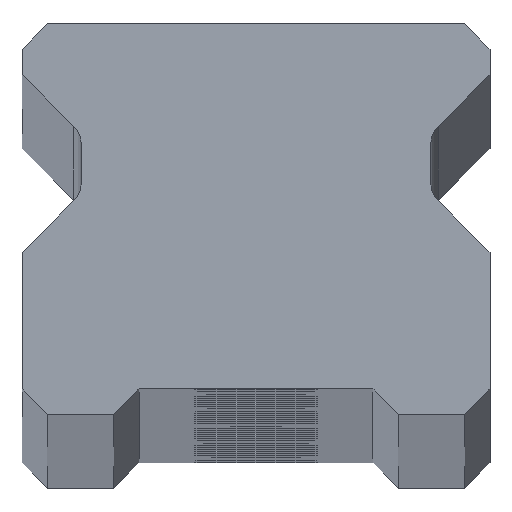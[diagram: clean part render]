
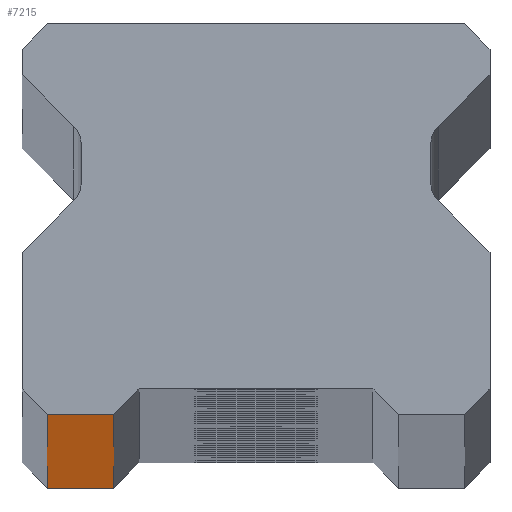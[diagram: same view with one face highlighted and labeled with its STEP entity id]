
A CAD part, top view. The second image highlights one B-rep face of the part: STEP entity #7215.
In plain terms, the highlighted planar face has unit normal (0, -1, 0).
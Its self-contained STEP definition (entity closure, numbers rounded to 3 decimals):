
#195 = CARTESIAN_POINT ( 'NONE',  ( -10.25, 0., 1040. ) ) ;
#523 = CARTESIAN_POINT ( 'NONE',  ( -7., 0., -1040. ) ) ;
#569 = LINE ( 'NONE', #1022, #6429 ) ;
#607 = EDGE_LOOP ( 'NONE', ( #6601, #5048, #6167, #7192 ) ) ;
#728 = VERTEX_POINT ( 'NONE', #850 ) ;
#789 = CARTESIAN_POINT ( 'NONE',  ( 11.5, 0., 1040. ) ) ;
#850 = CARTESIAN_POINT ( 'NONE',  ( -10.25, 0., -1040. ) ) ;
#1022 = CARTESIAN_POINT ( 'NONE',  ( -7., 0., -1040. ) ) ;
#1078 = EDGE_CURVE ( 'NONE', #1566, #728, #4931, .T. ) ;
#1085 = CARTESIAN_POINT ( 'NONE',  ( -7., 0., 1040. ) ) ;
#1111 = CARTESIAN_POINT ( 'NONE',  ( 11.5, 0., 1040. ) ) ;
#1276 = DIRECTION ( 'NONE',  ( 1., 0., 0. ) ) ;
#1566 = VERTEX_POINT ( 'NONE', #6914 ) ;
#2180 = DIRECTION ( 'NONE',  ( 0., 0., 1. ) ) ;
#2559 = PLANE ( 'NONE',  #7259 ) ;
#3617 = VECTOR ( 'NONE', #4213, 1000. ) ;
#3899 = DIRECTION ( 'NONE',  ( 1., 0., 0. ) ) ;
#4014 = VECTOR ( 'NONE', #3899, 1000. ) ;
#4065 = VERTEX_POINT ( 'NONE', #1085 ) ;
#4157 = CARTESIAN_POINT ( 'NONE',  ( 11.5, 0., -1040. ) ) ;
#4213 = DIRECTION ( 'NONE',  ( 0., 0., -1. ) ) ;
#4295 = EDGE_CURVE ( 'NONE', #1566, #4065, #5520, .T. ) ;
#4665 = VERTEX_POINT ( 'NONE', #523 ) ;
#4789 = DIRECTION ( 'NONE',  ( -1., 0., 0. ) ) ;
#4931 = LINE ( 'NONE', #195, #3617 ) ;
#5048 = ORIENTED_EDGE ( 'NONE', *, *, #6036, .T. ) ;
#5413 = DIRECTION ( 'NONE',  ( 0., 1., 0. ) ) ;
#5520 = LINE ( 'NONE', #1111, #4014 ) ;
#5596 = EDGE_CURVE ( 'NONE', #728, #4665, #6520, .T. ) ;
#6036 = EDGE_CURVE ( 'NONE', #4665, #4065, #569, .T. ) ;
#6167 = ORIENTED_EDGE ( 'NONE', *, *, #4295, .F. ) ;
#6429 = VECTOR ( 'NONE', #2180, 1000. ) ;
#6435 = VECTOR ( 'NONE', #1276, 1000. ) ;
#6520 = LINE ( 'NONE', #4157, #6435 ) ;
#6601 = ORIENTED_EDGE ( 'NONE', *, *, #5596, .T. ) ;
#6914 = CARTESIAN_POINT ( 'NONE',  ( -10.25, 0., 1040. ) ) ;
#7093 = FACE_OUTER_BOUND ( 'NONE', #607, .T. ) ;
#7192 = ORIENTED_EDGE ( 'NONE', *, *, #1078, .T. ) ;
#7215 = ADVANCED_FACE ( 'NONE', ( #7093 ), #2559, .F. ) ;
#7259 = AXIS2_PLACEMENT_3D ( 'NONE', #789, #5413, #4789 ) ;
